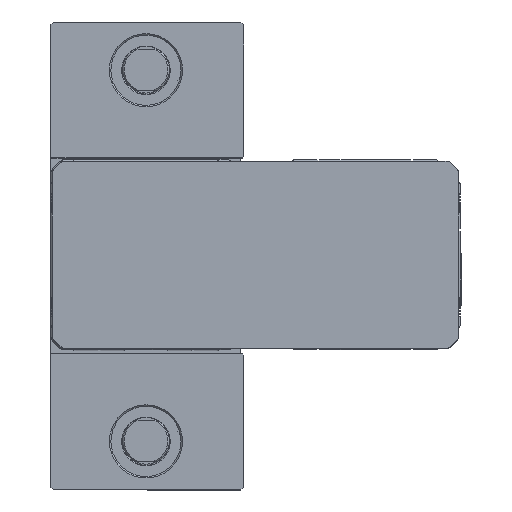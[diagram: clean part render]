
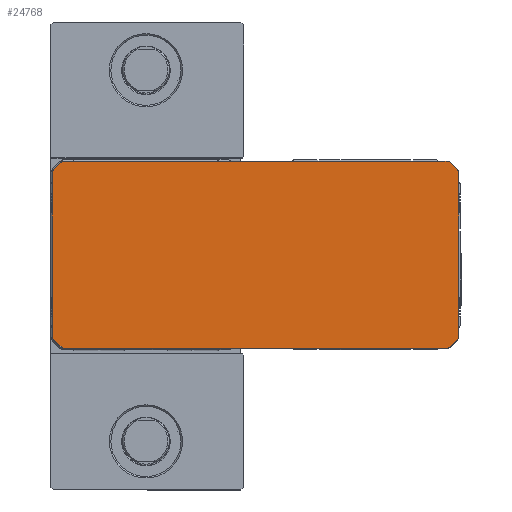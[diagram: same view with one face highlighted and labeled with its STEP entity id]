
A CAD part, top view. The second image highlights one B-rep face of the part: STEP entity #24768.
In plain terms, the highlighted planar face has unit normal (0, 0, 1).
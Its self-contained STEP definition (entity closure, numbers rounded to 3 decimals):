
#165 = VERTEX_POINT ( 'NONE', #9788 ) ;
#322 = VERTEX_POINT ( 'NONE', #3870 ) ;
#649 = CARTESIAN_POINT ( 'NONE',  ( -28., 30.5, 252.5 ) ) ;
#1025 = DIRECTION ( 'NONE',  ( 0., 0., 1. ) ) ;
#1160 = VERTEX_POINT ( 'NONE', #32790 ) ;
#1451 = CARTESIAN_POINT ( 'NONE',  ( 106.561, 29.061, 252.5 ) ) ;
#2259 = CARTESIAN_POINT ( 'NONE',  ( 103., -30.5, 252.5 ) ) ;
#2266 = LINE ( 'NONE', #19214, #19852 ) ;
#2468 = CARTESIAN_POINT ( 'NONE',  ( -32., 28., 252.5 ) ) ;
#2671 = CIRCLE ( 'NONE', #10829, 1.5 ) ;
#3175 = DIRECTION ( 'NONE',  ( 0., 0., 1. ) ) ;
#3389 = ORIENTED_EDGE ( 'NONE', *, *, #23049, .T. ) ;
#3772 = EDGE_CURVE ( 'NONE', #6502, #39544, #30306, .T. ) ;
#3870 = CARTESIAN_POINT ( 'NONE',  ( 104.061, -31.561, 252.5 ) ) ;
#4127 = DIRECTION ( 'NONE',  ( 1., 0., 0. ) ) ;
#5145 = CARTESIAN_POINT ( 'NONE',  ( 103., 32., 252.5 ) ) ;
#5320 = CARTESIAN_POINT ( 'NONE',  ( 103., 32., 252.5 ) ) ;
#5765 = DIRECTION ( 'NONE',  ( 1., 0., 0. ) ) ;
#6256 = LINE ( 'NONE', #20187, #7334 ) ;
#6439 = CARTESIAN_POINT ( 'NONE',  ( -30.5, 28., 252.5 ) ) ;
#6502 = VERTEX_POINT ( 'NONE', #33460 ) ;
#6734 = CARTESIAN_POINT ( 'NONE',  ( 103., -32., 252.5 ) ) ;
#6832 = ORIENTED_EDGE ( 'NONE', *, *, #3772, .T. ) ;
#7044 = EDGE_CURVE ( 'NONE', #22006, #25564, #38964, .T. ) ;
#7334 = VECTOR ( 'NONE', #44641, 1000. ) ;
#8196 = EDGE_CURVE ( 'NONE', #39544, #23870, #25757, .T. ) ;
#8286 = EDGE_CURVE ( 'NONE', #23013, #322, #2671, .T. ) ;
#8307 = VERTEX_POINT ( 'NONE', #23425 ) ;
#8338 = VECTOR ( 'NONE', #21001, 1000. ) ;
#8820 = CIRCLE ( 'NONE', #43555, 1.5 ) ;
#8873 = DIRECTION ( 'NONE',  ( 0., 1., 0. ) ) ;
#9678 = CIRCLE ( 'NONE', #18246, 1.5 ) ;
#9788 = CARTESIAN_POINT ( 'NONE',  ( -31.561, 29.061, 252.5 ) ) ;
#9971 = DIRECTION ( 'NONE',  ( 1., 0., 0. ) ) ;
#10057 = CARTESIAN_POINT ( 'NONE',  ( -29.061, 31.561, 252.5 ) ) ;
#10287 = ORIENTED_EDGE ( 'NONE', *, *, #43069, .T. ) ;
#10829 = AXIS2_PLACEMENT_3D ( 'NONE', #2259, #26816, #5765 ) ;
#11026 = ORIENTED_EDGE ( 'NONE', *, *, #37805, .T. ) ;
#11114 = CARTESIAN_POINT ( 'NONE',  ( 107., -28., 252.5 ) ) ;
#11520 = ORIENTED_EDGE ( 'NONE', *, *, #36885, .T. ) ;
#12443 = CARTESIAN_POINT ( 'NONE',  ( -30.5, -28., 252.5 ) ) ;
#12648 = AXIS2_PLACEMENT_3D ( 'NONE', #6439, #30976, #9971 ) ;
#12811 = VECTOR ( 'NONE', #17515, 1000. ) ;
#13872 = CARTESIAN_POINT ( 'NONE',  ( 106.561, -29.061, 252.5 ) ) ;
#13960 = DIRECTION ( 'NONE',  ( 0., 0., 1. ) ) ;
#14576 = ORIENTED_EDGE ( 'NONE', *, *, #44906, .T. ) ;
#14622 = CARTESIAN_POINT ( 'NONE',  ( 105.5, -28., 252.5 ) ) ;
#14792 = EDGE_CURVE ( 'NONE', #1160, #165, #36917, .T. ) ;
#15203 = ORIENTED_EDGE ( 'NONE', *, *, #8286, .T. ) ;
#15302 = CARTESIAN_POINT ( 'NONE',  ( -30.5, -28., 252.5 ) ) ;
#15552 = CARTESIAN_POINT ( 'NONE',  ( -28., 32., 252.5 ) ) ;
#15976 = DIRECTION ( 'NONE',  ( 1., 0., 0. ) ) ;
#16580 = CARTESIAN_POINT ( 'NONE',  ( -32., 28., 252.5 ) ) ;
#17345 = LINE ( 'NONE', #16580, #34869 ) ;
#17515 = DIRECTION ( 'NONE',  ( 0.707, -0.707, 0. ) ) ;
#17550 = VERTEX_POINT ( 'NONE', #2468 ) ;
#17667 = LINE ( 'NONE', #45474, #8338 ) ;
#18200 = DIRECTION ( 'NONE',  ( 1., 0., 0. ) ) ;
#18227 = AXIS2_PLACEMENT_3D ( 'NONE', #24240, #3175, #27768 ) ;
#18246 = AXIS2_PLACEMENT_3D ( 'NONE', #34974, #13960, #38478 ) ;
#18658 = ORIENTED_EDGE ( 'NONE', *, *, #8196, .T. ) ;
#18868 = DIRECTION ( 'NONE',  ( 0., 0., 1. ) ) ;
#19214 = CARTESIAN_POINT ( 'NONE',  ( 106.561, 29.061, 252.5 ) ) ;
#19439 = VECTOR ( 'NONE', #38085, 1000. ) ;
#19747 = EDGE_CURVE ( 'NONE', #8307, #25217, #45458, .T. ) ;
#19852 = VECTOR ( 'NONE', #43646, 1000. ) ;
#20187 = CARTESIAN_POINT ( 'NONE',  ( -28., -32., 252.5 ) ) ;
#20581 = ORIENTED_EDGE ( 'NONE', *, *, #31920, .T. ) ;
#20839 = ORIENTED_EDGE ( 'NONE', *, *, #19747, .T. ) ;
#21001 = DIRECTION ( 'NONE',  ( 0.707, 0.707, 0. ) ) ;
#22006 = VERTEX_POINT ( 'NONE', #11114 ) ;
#22025 = CARTESIAN_POINT ( 'NONE',  ( 103., 30.5, 252.5 ) ) ;
#23013 = VERTEX_POINT ( 'NONE', #6734 ) ;
#23049 = EDGE_CURVE ( 'NONE', #322, #44185, #17667, .T. ) ;
#23140 = AXIS2_PLACEMENT_3D ( 'NONE', #14622, #39141, #18200 ) ;
#23425 = CARTESIAN_POINT ( 'NONE',  ( -32., -28., 252.5 ) ) ;
#23566 = ORIENTED_EDGE ( 'NONE', *, *, #7044, .T. ) ;
#23870 = VERTEX_POINT ( 'NONE', #15552 ) ;
#24240 = CARTESIAN_POINT ( 'NONE',  ( 105.5, 28., 252.5 ) ) ;
#24768 = ADVANCED_FACE ( 'NONE', ( #38305 ), #36285, .T. ) ;
#25196 = DIRECTION ( 'NONE',  ( 0., 0., 1. ) ) ;
#25217 = VERTEX_POINT ( 'NONE', #35313 ) ;
#25552 = DIRECTION ( 'NONE',  ( 1., 0., 0. ) ) ;
#25564 = VERTEX_POINT ( 'NONE', #37587 ) ;
#25757 = LINE ( 'NONE', #5145, #32873 ) ;
#26258 = EDGE_CURVE ( 'NONE', #25564, #36283, #36495, .T. ) ;
#26816 = DIRECTION ( 'NONE',  ( 0., 0., 1. ) ) ;
#27768 = DIRECTION ( 'NONE',  ( 1., 0., 0. ) ) ;
#27980 = CIRCLE ( 'NONE', #23140, 1.5 ) ;
#29058 = ORIENTED_EDGE ( 'NONE', *, *, #41957, .T. ) ;
#29555 = CARTESIAN_POINT ( 'NONE',  ( -28., -32., 252.5 ) ) ;
#29799 = EDGE_CURVE ( 'NONE', #25217, #40947, #39664, .T. ) ;
#29896 = CARTESIAN_POINT ( 'NONE',  ( 107., -28., 252.5 ) ) ;
#30306 = CIRCLE ( 'NONE', #39494, 1.5 ) ;
#30563 = DIRECTION ( 'NONE',  ( 0., -1., 0. ) ) ;
#30976 = DIRECTION ( 'NONE',  ( 0., 0., 1. ) ) ;
#31442 = CARTESIAN_POINT ( 'NONE',  ( -31.561, -29.061, 252.5 ) ) ;
#31920 = EDGE_CURVE ( 'NONE', #165, #17550, #41637, .T. ) ;
#32790 = CARTESIAN_POINT ( 'NONE',  ( -29.061, 31.561, 252.5 ) ) ;
#32870 = AXIS2_PLACEMENT_3D ( 'NONE', #15302, #18868, #43326 ) ;
#32873 = VECTOR ( 'NONE', #40093, 1000. ) ;
#33460 = CARTESIAN_POINT ( 'NONE',  ( 104.061, 31.561, 252.5 ) ) ;
#34433 = VERTEX_POINT ( 'NONE', #29555 ) ;
#34496 = ORIENTED_EDGE ( 'NONE', *, *, #14792, .T. ) ;
#34869 = VECTOR ( 'NONE', #30563, 1000. ) ;
#34974 = CARTESIAN_POINT ( 'NONE',  ( -28., -30.5, 252.5 ) ) ;
#35026 = EDGE_LOOP ( 'NONE', ( #20839, #40727, #41104, #10287, #15203, #3389, #11026, #23566, #36956, #11520, #6832, #18658, #14576, #34496, #20581, #29058 ) ) ;
#35313 = CARTESIAN_POINT ( 'NONE',  ( -31.561, -29.061, 252.5 ) ) ;
#36283 = VERTEX_POINT ( 'NONE', #1451 ) ;
#36285 = PLANE ( 'NONE',  #32870 ) ;
#36495 = CIRCLE ( 'NONE', #18227, 1.5 ) ;
#36885 = EDGE_CURVE ( 'NONE', #36283, #6502, #2266, .T. ) ;
#36917 = LINE ( 'NONE', #10057, #19439 ) ;
#36948 = DIRECTION ( 'NONE',  ( 0., 0., 1. ) ) ;
#36956 = ORIENTED_EDGE ( 'NONE', *, *, #26258, .T. ) ;
#37587 = CARTESIAN_POINT ( 'NONE',  ( 107., 28., 252.5 ) ) ;
#37805 = EDGE_CURVE ( 'NONE', #44185, #22006, #27980, .T. ) ;
#37900 = VECTOR ( 'NONE', #8873, 1000. ) ;
#38085 = DIRECTION ( 'NONE',  ( -0.707, -0.707, 0. ) ) ;
#38305 = FACE_OUTER_BOUND ( 'NONE', #35026, .T. ) ;
#38478 = DIRECTION ( 'NONE',  ( 1., 0., 0. ) ) ;
#38521 = AXIS2_PLACEMENT_3D ( 'NONE', #12443, #36948, #15976 ) ;
#38964 = LINE ( 'NONE', #29896, #37900 ) ;
#39141 = DIRECTION ( 'NONE',  ( 0., 0., 1. ) ) ;
#39494 = AXIS2_PLACEMENT_3D ( 'NONE', #22025, #1025, #25552 ) ;
#39544 = VERTEX_POINT ( 'NONE', #5320 ) ;
#39664 = LINE ( 'NONE', #31442, #12811 ) ;
#40093 = DIRECTION ( 'NONE',  ( -1., 0., 0. ) ) ;
#40433 = EDGE_CURVE ( 'NONE', #40947, #34433, #9678, .T. ) ;
#40727 = ORIENTED_EDGE ( 'NONE', *, *, #29799, .T. ) ;
#40947 = VERTEX_POINT ( 'NONE', #42091 ) ;
#41104 = ORIENTED_EDGE ( 'NONE', *, *, #40433, .T. ) ;
#41637 = CIRCLE ( 'NONE', #12648, 1.5 ) ;
#41957 = EDGE_CURVE ( 'NONE', #17550, #8307, #17345, .T. ) ;
#42091 = CARTESIAN_POINT ( 'NONE',  ( -29.061, -31.561, 252.5 ) ) ;
#43069 = EDGE_CURVE ( 'NONE', #34433, #23013, #6256, .T. ) ;
#43326 = DIRECTION ( 'NONE',  ( 1., 0., 0. ) ) ;
#43555 = AXIS2_PLACEMENT_3D ( 'NONE', #649, #25196, #4127 ) ;
#43646 = DIRECTION ( 'NONE',  ( -0.707, 0.707, 0. ) ) ;
#44185 = VERTEX_POINT ( 'NONE', #13872 ) ;
#44641 = DIRECTION ( 'NONE',  ( 1., 0., 0. ) ) ;
#44906 = EDGE_CURVE ( 'NONE', #23870, #1160, #8820, .T. ) ;
#45458 = CIRCLE ( 'NONE', #38521, 1.5 ) ;
#45474 = CARTESIAN_POINT ( 'NONE',  ( 104.061, -31.561, 252.5 ) ) ;
